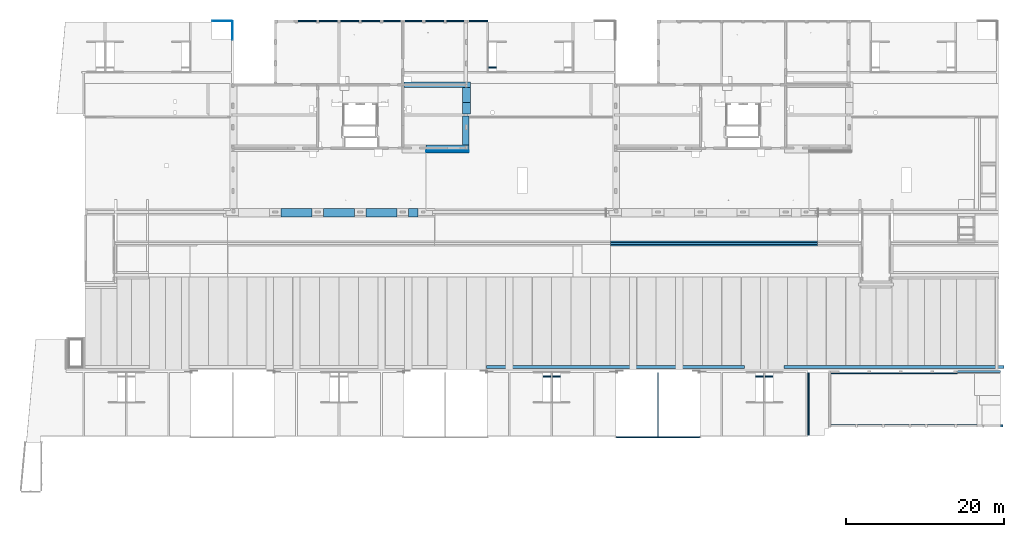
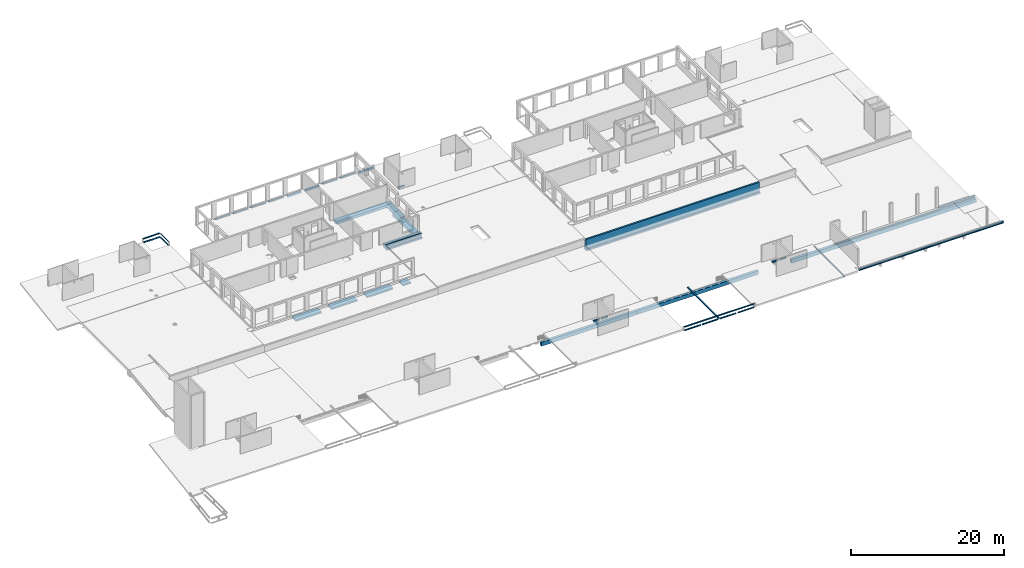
# One storey, part 12 of 36: 37 beams.
"""IFC2X3 building model written with IfcOpenShell, lengths in millimetres."""

from ifc_helpers import new_model, entity, si_unit, converted_unit, derived_unit, direction, frame, frame_2d, origin, origin_2d_with_axis, place, context, subcontext, project, spatial, polyline, circle_curve, parameter, trimmed, segment, composite_curve, rectangle, i_section, outline, extrude, source, transform, mapped, material, type_object, type_shapes, element, save


model = new_model("IFC2X3")

# Units and contexts
model_context = context("Model", 3, precision=0.01, world=origin(), true_north=direction((6.12303176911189e-17, 1.0)))
body_context = subcontext(model_context, "Body", "Model", "MODEL_VIEW")
ifc_project = project(units=[si_unit("LENGTHUNIT", "METRE", prefix="MILLI"), si_unit("AREAUNIT", "SQUARE_METRE"), si_unit("VOLUMEUNIT", "CUBIC_METRE"), converted_unit("PLANEANGLEUNIT", "DEGREE", entity("IfcRatioMeasure", 0.0174532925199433), si_unit("PLANEANGLEUNIT", "RADIAN"), dimensions=[0, 0, 0, 0, 0, 0, 0]), si_unit("MASSUNIT", "GRAM", prefix="KILO"), derived_unit("MASSDENSITYUNIT", [(si_unit("MASSUNIT", "GRAM", prefix="KILO"), 1), (si_unit("LENGTHUNIT", "METRE"), -3)]), si_unit("TIMEUNIT", "SECOND"), si_unit("FREQUENCYUNIT", "HERTZ"), si_unit("THERMODYNAMICTEMPERATUREUNIT", "DEGREE_CELSIUS"), derived_unit("THERMALTRANSMITTANCEUNIT", [(si_unit("MASSUNIT", "GRAM", prefix="KILO"), 1), (si_unit("THERMODYNAMICTEMPERATUREUNIT", "KELVIN"), -1), (si_unit("TIMEUNIT", "SECOND"), -3)]), derived_unit("VOLUMETRICFLOWRATEUNIT", [(si_unit("LENGTHUNIT", "METRE"), 3), (si_unit("TIMEUNIT", "SECOND"), -1)]), si_unit("ELECTRICCURRENTUNIT", "AMPERE"), si_unit("ELECTRICVOLTAGEUNIT", "VOLT"), si_unit("POWERUNIT", "WATT"), si_unit("FORCEUNIT", "NEWTON", prefix="KILO"), si_unit("ILLUMINANCEUNIT", "LUX"), si_unit("LUMINOUSFLUXUNIT", "LUMEN"), si_unit("LUMINOUSINTENSITYUNIT", "CANDELA"), derived_unit("USERDEFINED", [(si_unit("MASSUNIT", "GRAM", prefix="KILO"), -1), (si_unit("LENGTHUNIT", "METRE"), -2), (si_unit("TIMEUNIT", "SECOND"), 3), (si_unit("LUMINOUSFLUXUNIT", "LUMEN"), 1)]), derived_unit("LINEARVELOCITYUNIT", [(si_unit("LENGTHUNIT", "METRE"), 1), (si_unit("TIMEUNIT", "SECOND"), -1)]), si_unit("PRESSUREUNIT", "PASCAL"), derived_unit("USERDEFINED", [(si_unit("LENGTHUNIT", "METRE"), -2), (si_unit("MASSUNIT", "GRAM", prefix="KILO"), 1), (si_unit("TIMEUNIT", "SECOND"), -2)])], contexts=[model_context])

# Site, building, storey
site_placement = place(None, origin())
site = spatial("IfcSite", under=ifc_project, at=site_placement, Name="Default", CompositionType="ELEMENT")
building_placement = place(site_placement, origin())
building = spatial("IfcBuilding", under=site, at=building_placement, Name="niet gebruiken", CompositionType="ELEMENT")
storey_placement = place(building_placement, frame((0.0, 0.0, 12600.0)))
storey = spatial("IfcBuildingStorey", under=building, at=storey_placement, Name="04 vierde verdieping", CompositionType="ELEMENT", Elevation=12600.0)

# Beams
ifc_material_1 = material(Name="NLRS_f2_beton ihwg")
beam_type_1 = type_object("IfcBeamType", Name="250x280", PredefinedType="BEAM", material=ifc_material_1)
beam_1_placement = place(storey_placement, frame((56495.0, 53131.0, -340.0)))
element("IfcBeam", 1, at=beam_1_placement, inside=storey, type_object=beam_type_1, material=ifc_material_1, Name="NLRS_28.11_SF_WPB_betonbalk ihwg recht_gen:250x280", ObjectType="NLRS_28.11_SF_WPB_betonbalk ihwg recht_gen:250x280", context=body_context, shape_type="SweptSolid", body=[
    extrude(rectangle(XDim=279.999999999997, YDim=250.000000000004, at=frame_2d((0.0, 1.29958266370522e-11), x_axis=(1.0, 0.0))), frame((515.0, 0.0, -140.0), z_axis=(1.0, 0.0, 0.0), x_axis=(0.0, 0.0, -1.0)), (0.0, 0.0, 1.0), 2369.99999999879),
])
beam_type_2 = type_object("IfcBeamType", Name="250x280", PredefinedType="BEAM", material=ifc_material_1)
shared_shape_1 = source(origin(), body_context, "Body", "SweptSolid", [
    extrude(rectangle(XDim=2080.0000000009, YDim=249.999999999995, at=origin_2d_with_axis()), frame((47250.0, 53131.0, 11980.0), z_axis=(0.0, 0.0, 1.0), x_axis=(-1.0, 0.0, 0.0)), (0.0, 0.0, 1.0), 279.999999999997),
    extrude(rectangle(XDim=2079.99999999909, YDim=249.999999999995, at=origin_2d_with_axis()), frame((49950.0, 53131.0, 11980.0)), (0.0, 0.0, 1.0), 279.999999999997),
])
type_shapes(beam_type_2, [shared_shape_1])
beam_2_placement = place(storey_placement, frame((0.0, 0.0, -12600.0)))
element("IfcBeam", 2, at=beam_2_placement, inside=storey, type_object=beam_type_2, material=ifc_material_1, Name="NLRS_28.11_SF_WPB_betonbalk ihwg recht_gen:250x280", ObjectType="250x280", context=body_context, shape_type="MappedRepresentation", body=[
    mapped(shared_shape_1, transform((0.0, 0.0, 0.0), scale=1.0)),
])
ifc_material_2 = material(Name="NLRS_f2_beton prefab")
beam_type_3 = type_object("IfcBeamType", Name="NLRS_28.11_SF_WPB_prefabbeton balk recht_gen:400x600", PredefinedType="BEAM")
beam_3_placement = place(storey_placement, frame((97000.00329825, 9196.0, -1670.0)))
element("IfcBeam", 3, at=beam_3_placement, inside=storey, type_object=beam_type_3, material=ifc_material_2, Name="NLRS_28.11_SF_WPB_prefabbeton balk recht_gen:400x600", ObjectType="NLRS_28.11_SF_WPB_prefabbeton balk recht_gen:400x600", context=body_context, shape_type="SweptSolid", body=[
    extrude(rectangle(XDim=600.0, YDim=400.0, at=frame_2d((1.08002495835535e-12, 1.03952402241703e-10), x_axis=(1.0, 0.0))), frame((0.0, 0.0, -300.0), z_axis=(1.0, 0.0, 0.0), x_axis=(0.0, 0.0, -1.0)), (0.0, 0.0, 1.0), 27929.99670175),
])
beam_type_4 = type_object("IfcBeamType", Name="NLRS_28.11_SF_WPB_betonbalk ihwg enkele sponning_gen:1050x560/200x310", PredefinedType="BEAM")
beam_4_placement = place(storey_placement, frame((51575.0, 36881.0, -340.0)))
element("IfcBeam", 4, at=beam_4_placement, inside=storey, type_object=beam_type_4, material=ifc_material_1, Name="NLRS_28.11_SF_WPB_betonbalk ihwg enkele sponning_gen:1050x560/200x310", ObjectType="NLRS_28.11_SF_WPB_betonbalk ihwg enkele sponning_gen:1050x560/200x310", context=body_context, shape_type="SweptSolid", body=[
    extrude(outline(polyline([(20.0, -416.666666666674), (270.0, -416.666666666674), (270.0, 633.333333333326), (-290.0, 633.333333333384), (-290.0, -216.666666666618), (20.0, -216.66666666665), (20.0, -416.666666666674)])), frame((0.0, -108.33333333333, -290.0), z_axis=(1.0, 0.0, 0.0), x_axis=(0.0, 0.0, -1.0)), (0.0, 0.0, 1.0), 5399.99999999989),
])
beam_type_5 = type_object("IfcBeamType", Name="NLRS_28.11_SF_WPB_betonbalk ihwg recht_gen:125x250", PredefinedType="BEAM")
beam_5_placement = place(storey_placement, frame((51575.0, 36618.5000000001, -90.0)))
element("IfcBeam", 5, at=beam_5_placement, inside=storey, type_object=beam_type_5, material=ifc_material_1, Name="NLRS_28.11_SF_WPB_betonbalk ihwg recht_gen:125x250", ObjectType="NLRS_28.11_SF_WPB_betonbalk ihwg recht_gen:125x250", context=body_context, shape_type="SweptSolid", body=[
    extrude(rectangle(XDim=189.999999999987, YDim=125.000000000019, at=frame_2d((-1.19158016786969e-11, 4.33075797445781e-12), x_axis=(1.0, 0.0))), frame((0.0, 0.0, -155.0), z_axis=(1.0, 0.0, 0.0), x_axis=(0.0, 0.0, -1.0)), (0.0, 0.0, 1.0), 5399.99999999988),
])
beam_type_6 = type_object("IfcBeamType", Name="NLRS_28.11_SF_WPB_betonbalk ihwg recht_gen:700x450", PredefinedType="BEAM")
beam_6_placement = place(storey_placement, frame((48725.0, 45031.0, -340.0)))
element("IfcBeam", 6, at=beam_6_placement, inside=storey, type_object=beam_type_6, material=ifc_material_1, Name="NLRS_28.11_SF_WPB_betonbalk ihwg recht_gen:700x450", ObjectType="NLRS_28.11_SF_WPB_betonbalk ihwg recht_gen:700x450", context=body_context, shape_type="SweptSolid", body=[
    extrude(rectangle(XDim=449.999999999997, YDim=699.999999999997, at=frame_2d((0.0, 1.7308821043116e-11), x_axis=(1.0, 0.0))), frame((0.0, 0.0, -225.0), z_axis=(1.0, 0.0, 0.0), x_axis=(0.0, 0.0, -1.0)), (0.0, 0.0, 1.0), 8449.99999999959),
])
beam_type_7 = type_object("IfcBeamType", Name="NLRS_28.11_SF_WPB_prefabbeton balk dubbele sponning_gen:650x1715/200x1530/200x345", PredefinedType="BEAM")
beam_7_placement = place(storey_placement, frame((74970.0, 24876.0, -305.0)))
element("IfcBeam", 7, at=beam_7_placement, inside=storey, type_object=beam_type_7, material=ifc_material_2, Name="NLRS_28.11_SF_WPB_prefabbeton balk dubbele sponning_gen:650x1715/200x1530/200x345", ObjectType="NLRS_28.11_SF_WPB_prefabbeton balk dubbele sponning_gen:650x1715/200x1530/200x345", context=body_context, shape_type="SweptSolid", body=[
    extrude(outline(polyline([(580.0, -325.0), (835.0, -325.0), (835.0, 325.0), (-535.0, 325.0), (-535.0, 125.0), (-880.0, 125.0), (-880.0, -125.0), (580.0, -125.0), (580.0, -325.0)])), frame((0.0, 0.0, -880.0), z_axis=(1.0, 0.0, 0.0), x_axis=(0.0, 0.0, -1.0)), (0.0, 0.0, 1.0), 26270.0000000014),
])
beam_type_8 = type_object("IfcBeamType", Name="800x810", PredefinedType="BEAM", material=ifc_material_1)
beam_8_placement = place(storey_placement, frame((56575.0, 37406.0, -90.0), z_axis=(0.0, 0.0, 1.0), x_axis=(0.0, 1.0, 0.0)))
element("IfcBeam", 8, at=beam_8_placement, inside=storey, type_object=beam_type_8, material=ifc_material_1, Name="NLRS_28.11_SF_WPB_betonbalk ihwg recht_gen:800x810", ObjectType="NLRS_28.11_SF_WPB_betonbalk ihwg recht_gen:800x810", context=body_context, shape_type="SweptSolid", body=[
    extrude(rectangle(XDim=559.999999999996, YDim=800.0, at=frame_2d((1.08002495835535e-12, 4.34852154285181e-12), x_axis=(1.0, 0.0))), frame((0.0, 0.0, -530.0), z_axis=(1.0, 0.0, 0.0), x_axis=(0.0, 0.0, -1.0)), (0.0, 0.0, 1.0), 3654.99999999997),
])
beam_type_9 = type_object("IfcBeamType", Name="NLRS_28.11_SF_WPB_betonbalk ihwg recht_gen:1000x560", PredefinedType="BEAM")
beam_9_placement = place(storey_placement, frame((56675.0, 41311.0, -340.0), z_axis=(0.0, 0.0, 1.0), x_axis=(0.0, 1.0, 0.0)))
element("IfcBeam", 9, at=beam_9_placement, inside=storey, type_object=beam_type_9, material=ifc_material_1, Name="NLRS_28.11_SF_WPB_betonbalk ihwg recht_gen:1000x560", ObjectType="NLRS_28.11_SF_WPB_betonbalk ihwg recht_gen:1000x560", context=body_context, shape_type="SweptSolid", body=[
    extrude(rectangle(XDim=559.999999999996, YDim=999.999999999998, at=frame_2d((-1.08002495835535e-12, 0.0), x_axis=(1.0, 0.0))), frame((0.0, 0.0, -280.0), z_axis=(1.0, 0.0, 0.0), x_axis=(0.0, 0.0, -1.0)), (0.0, 0.0, 1.0), 1495.00000000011),
])
beam_type_10 = type_object("IfcBeamType", Name="NLRS_28.11_SF_WPB_betonbalk ihwg recht_gen:1000x150", PredefinedType="BEAM")
beam_10_placement = place(storey_placement, frame((56675.0, 42806.0, -340.0), z_axis=(0.0, 0.0, 1.0), x_axis=(0.0, 1.0, 0.0)))
element("IfcBeam", 10, at=beam_10_placement, inside=storey, type_object=beam_type_10, material=ifc_material_1, Name="NLRS_28.11_SF_WPB_betonbalk ihwg recht_gen:1000x150", ObjectType="NLRS_28.11_SF_WPB_betonbalk ihwg recht_gen:1000x150", context=body_context, shape_type="SweptSolid", body=[
    extrude(rectangle(XDim=149.999999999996, YDim=999.999999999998, at=origin_2d_with_axis()), frame((0.0, 0.0, -75.0), z_axis=(1.0, 0.0, 0.0), x_axis=(0.0, 0.0, -1.0)), (0.0, 0.0, 1.0), 1875.00000000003),
])
ifc_material_3 = material(Name="NLRS_h2_staal")
beam_type_11 = type_object("IfcBeamType", Name="NLRS_28.11_SF_WPB_stalen ligger HEA_gen:ligger HEA 160", PredefinedType="BEAM")
beam_11_placement = place(storey_placement, frame((75700.0, 300.0, -240.0)))
element("IfcBeam", 11, at=beam_11_placement, inside=storey, type_object=beam_type_11, material=ifc_material_3, Name="NLRS_28.11_SF_WPB_stalen ligger HEA_gen:ligger HEA 160", ObjectType="NLRS_28.11_SF_WPB_stalen ligger HEA_gen:ligger HEA 160", context=body_context, shape_type="SweptSolid", body=[
    extrude(i_section(OverallWidth=159.999999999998, OverallDepth=152.000000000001, WebThickness=5.99999999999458, FlangeThickness=8.99999999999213, FilletRadius=15.0000000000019, at=frame_2d((0.0, 8.95283847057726e-13), x_axis=(1.0, 0.0))), frame((0.0, 0.0, 0.0), z_axis=(1.0, 0.0, 0.0), x_axis=(0.0, 0.0, -1.0)), (0.0, 0.0, 1.0), 2499.99999999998),
])
for number, where, name in (
    (12, (78400.0, 300.0, -240.0), "NLRS_28.11_SF_WPB_stalen ligger HEA_gen:ligger HEA 160"),
    (13, (81100.0, 300.0, -240.0), "NLRS_28.11_SF_WPB_stalen ligger HEA_gen:ligger HEA 160"),
):
    element("IfcBeam", number, at=place(storey_placement, frame(where)), inside=storey, type_object=beam_type_11, material=ifc_material_3, Name=name, ObjectType="NLRS_28.11_SF_WPB_stalen ligger HEA_gen:ligger HEA 160", context=body_context, shape_type="SweptSolid", body=[
        extrude(i_section(OverallWidth=160.0, OverallDepth=152.000000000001, WebThickness=5.99999999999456, FlangeThickness=8.99999999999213, FilletRadius=15.0000000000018, at=frame_2d((1.08002495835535e-12, 8.45545855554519e-13), x_axis=(1.0, 0.0))), frame((0.0, 0.0, 0.0), z_axis=(1.0, 0.0, 0.0), x_axis=(0.0, 0.0, -1.0)), (0.0, 0.0, 1.0), 2499.99999999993),
    ])
beam_12_placement = place(storey_placement, frame((83800.0, 300.0, -240.0)))
element("IfcBeam", 14, at=beam_12_placement, inside=storey, type_object=beam_type_11, material=ifc_material_3, Name="NLRS_28.11_SF_WPB_stalen ligger HEA_gen:ligger HEA 160", ObjectType="NLRS_28.11_SF_WPB_stalen ligger HEA_gen:ligger HEA 160", context=body_context, shape_type="SweptSolid", body=[
    extrude(i_section(OverallWidth=160.0, OverallDepth=152.000000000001, WebThickness=5.99999999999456, FlangeThickness=8.99999999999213, FilletRadius=15.0000000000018, at=frame_2d((1.08002495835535e-12, 8.81072992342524e-13), x_axis=(1.0, 0.0))), frame((0.0, 0.0, 0.0), z_axis=(1.0, 0.0, 0.0), x_axis=(0.0, 0.0, -1.0)), (0.0, 0.0, 1.0), 2499.99999999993),
])
beam_13_placement = place(storey_placement, frame((75700.0, 300.0, 320.0)))
element("IfcBeam", 15, at=beam_13_placement, inside=storey, type_object=beam_type_11, material=ifc_material_3, Name="NLRS_28.11_SF_WPB_stalen ligger HEA_gen:ligger HEA 160", ObjectType="NLRS_28.11_SF_WPB_stalen ligger HEA_gen:ligger HEA 160", context=body_context, shape_type="SweptSolid", body=[
    extrude(i_section(OverallWidth=160.0, OverallDepth=152.000000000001, WebThickness=5.99999999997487, FlangeThickness=8.99999999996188, FilletRadius=15.0000000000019, at=frame_2d((-1.08002495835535e-12, 9.45021838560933e-13), x_axis=(1.0, 0.0))), frame((0.0, 0.0, 0.0), z_axis=(1.0, 0.0, 0.0), x_axis=(0.0, 0.0, -1.0)), (0.0, 0.0, 1.0), 10600.0),
])
beam_type_12 = type_object("IfcBeamType", Name="NLRS_28.11_SF_WPB_stalen ligger buisprofiel warmgevormd vierkant_gen:ligger buisprofiel warmgevormd vierkant SHSH_180x180x10", PredefinedType="BEAM")
beam_14_placement = place(storey_placement, frame((81000.0, 395.0, -180.0), z_axis=(0.0, 0.0, 1.0), x_axis=(0.0, 1.0, 0.0)))
element("IfcBeam", 16, at=beam_14_placement, inside=storey, type_object=beam_type_12, material=ifc_material_3, Name="NLRS_28.11_SF_WPB_stalen ligger buisprofiel warmgevormd vierkant_gen:ligger buisprofiel warmgevormd vierkant SHSH_180x180x10", ObjectType="NLRS_28.11_SF_WPB_stalen ligger buisprofiel warmgevormd vierkant_gen:ligger buisprofiel warmgevormd vierkant SHSH_180x180x10", context=body_context, shape_type="SweptSolid", body=[
    extrude(outline(polyline([(-90.0, -90.0), (90.0, -90.0), (90.0, 90.0), (-90.0, 90.0), (-90.0, -90.0)]), holes=[composite_curve([segment(polyline([(-80.0, -70.0), (-80.0, 70.0)]), True, "CONTINUOUS"), segment(trimmed(circle_curve(frame_2d((-70.0, 70.0), x_axis=(0.0, -1.0)), 10.0), [parameter(180.000000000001)], [parameter(270.0)], True, "PARAMETER"), False, "CONTINUOUS"), segment(polyline([(-70.0, 80.0), (70.0, 80.0)]), True, "CONTINUOUS"), segment(trimmed(circle_curve(frame_2d((70.0, 70.0), x_axis=(0.0, -1.0)), 10.0), [parameter(90.0000000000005)], [parameter(180.0)], True, "PARAMETER"), False, "CONTINUOUS"), segment(polyline([(80.0, 70.0), (80.0, -70.0)]), True, "CONTINUOUS"), segment(trimmed(circle_curve(frame_2d((70.0, -70.0), x_axis=(0.0, -1.0)), 10.0), [parameter(4.07110999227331e-13)], [parameter(90.0000000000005)], True, "PARAMETER"), False, "CONTINUOUS"), segment(polyline([(70.0, -80.0), (-70.0, -80.0)]), True, "CONTINUOUS"), segment(trimmed(circle_curve(frame_2d((-70.0, -70.0), x_axis=(0.0, -1.0)), 10.0), [parameter(270.0)], [parameter(4.07110999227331e-13)], True, "PARAMETER"), False, "CONTINUOUS")], self_intersect=False)]), frame((12.7000006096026, 0.0, 0.0), z_axis=(1.0, 0.0, 0.0), x_axis=(0.0, 0.0, -1.0)), (0.0, 0.0, 1.0), 8072.2999993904),
])
beam_type_13 = type_object("IfcBeamType", Name="NLRS_28.11_SF_WPB_stalen ligger hoekprofiel gelijkzijdig_gen:ligger gelijzijdig hoekprofiel LEQU_200x200x15", PredefinedType="BEAM")
beam_15_placement = place(storey_placement, frame((100117.5, 8496.0, -380.0), z_axis=(0.0, 0.0, 1.0), x_axis=(0.0, -1.0, 0.0)))
element("IfcBeam", 17, at=beam_15_placement, inside=storey, type_object=beam_type_13, material=ifc_material_3, Name="NLRS_28.11_SF_WPB_stalen ligger hoekprofiel gelijkzijdig_gen:ligger gelijzijdig hoekprofiel LEQU_200x200x15", ObjectType="NLRS_28.11_SF_WPB_stalen ligger hoekprofiel gelijkzijdig_gen:ligger gelijzijdig hoekprofiel LEQU_200x200x15", context=body_context, shape_type="SweptSolid", body=[
    extrude(outline(composite_curve([segment(polyline([(-126.666666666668, -73.333333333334), (73.333333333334, -73.333333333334)]), True, "CONTINUOUS"), segment(polyline([(73.3333333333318, -73.3333333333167), (73.3333333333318, 126.666666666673)]), True, "CONTINUOUS"), segment(polyline([(73.333333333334, 126.666666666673), (66.3333333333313, 126.666666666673)]), True, "CONTINUOUS"), segment(trimmed(circle_curve(frame_2d((66.3333333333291, 118.666666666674), x_axis=(0.0, 1.0)), 7.99999999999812), [parameter(0.0)], [parameter(90.0000000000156)], True, "PARAMETER"), True, "CONTINUOUS"), segment(polyline([(58.3333333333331, 118.666666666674), (58.3333333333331, -42.333333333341)]), True, "CONTINUOUS"), segment(trimmed(circle_curve(frame_2d((42.3333333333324, -42.3333333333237), x_axis=(1.0, 0.0)), 15.9999999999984), [parameter(270.0)], [parameter(0.0)], True, "PARAMETER"), False, "CONTINUOUS"), segment(polyline([(42.3333333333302, -58.3333333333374), (-118.666666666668, -58.3333333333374)]), True, "CONTINUOUS"), segment(trimmed(circle_curve(frame_2d((-118.66666666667, -66.3333333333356), x_axis=(0.0, 1.0)), 7.99999999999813), [parameter(0.0)], [parameter(90.0000000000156)], True, "PARAMETER"), True, "CONTINUOUS"), segment(polyline([(-126.666666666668, -66.3333333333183), (-126.666666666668, -73.333333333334)]), True, "CONTINUOUS")], self_intersect=False)), frame((0.0, -19.1666666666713, 73.3333333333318), z_axis=(1.0, 0.0, 0.0), x_axis=(0.0, 0.0, -1.0)), (0.0, 0.0, 1.0), 7940.99999999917),
])
beam_type_14 = type_object("IfcBeamType", Name="ligger stripstaal RECT_355x12", PredefinedType="BEAM", material=ifc_material_3)
shared_shape_2 = source(origin(), body_context, "Body", "SweptSolid", [
    extrude(rectangle(XDim=21874.9999079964, YDim=355.0, at=origin_2d_with_axis()), frame((0.0, 0.0, -6.0), z_axis=(0.0, 0.0, 1.0), x_axis=(-1.0, 0.0, 0.0)), (0.0, 0.0, 1.0), 12.0),
    extrude(rectangle(XDim=21874.9999079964, YDim=355.0, at=origin_2d_with_axis()), frame((0.0, 0.0, -6.0), z_axis=(0.0, 0.0, 1.0), x_axis=(-1.0, 0.0, 0.0)), (0.0, 0.0, 1.0), 12.0),
])
type_shapes(beam_type_14, [shared_shape_2])
beam_16_placement = place(storey_placement, frame((113872.500046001, 1737.50000000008, -1026.0), z_axis=(0.0, 0.0, 1.0), x_axis=(-1.0, 0.0, 0.0)))
element("IfcBeam", 18, at=beam_16_placement, inside=storey, type_object=beam_type_14, material=ifc_material_3, Name="NLRS_28.11_SF_WPB_stalen ligger stripstaal_gen:ligger stripstaal RECT_355x12", ObjectType="ligger stripstaal RECT_355x12", context=body_context, shape_type="MappedRepresentation", body=[
    mapped(shared_shape_2, transform((0.0, 0.0, 0.0), scale=1.0)),
])
beam_type_15 = type_object("IfcBeamType", Name="NLRS_28.11_SF_WPB_stalen ligger HEB_gen:ligger HEB 260", PredefinedType="BEAM")
beam_17_placement = place(storey_placement, frame((102935.0, 1700.0, -760.0)))
element("IfcBeam", 19, at=beam_17_placement, inside=storey, type_object=beam_type_15, material=ifc_material_3, Name="NLRS_28.11_SF_WPB_stalen ligger HEB_gen:ligger HEB 260", ObjectType="NLRS_28.11_SF_WPB_stalen ligger HEB_gen:ligger HEB 260", context=body_context, shape_type="SweptSolid", body=[
    extrude(i_section(OverallWidth=260.0, OverallDepth=260.000000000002, WebThickness=9.99999999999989, FlangeThickness=17.5000000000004, FilletRadius=24.0000000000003, at=frame_2d((2.1600499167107e-12, 1.27897692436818e-13), x_axis=(0.0, 1.0))), frame((0.0, 0.0, -130.0), z_axis=(1.0, 0.0, 0.0), x_axis=(0.0, 0.0, -1.0)), (0.0, 0.0, 1.0), 21874.9999079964),
])
beam_18_placement = place(storey_placement, frame((124510.0, 8621.0, -760.0), z_axis=(0.0, 0.0, 1.0), x_axis=(-1.0, 0.0, 0.0)))
element("IfcBeam", 20, at=beam_18_placement, inside=storey, type_object=beam_type_15, material=ifc_material_3, Name="NLRS_28.11_SF_WPB_stalen ligger HEB_gen:ligger HEB 260", ObjectType="NLRS_28.11_SF_WPB_stalen ligger HEB_gen:ligger HEB 260", context=body_context, shape_type="SweptSolid", body=[
    extrude(i_section(OverallWidth=259.999999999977, OverallDepth=260.000000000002, WebThickness=10.0000000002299, FlangeThickness=17.5000000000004, FilletRadius=24.0000000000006, at=frame_2d((0.0, -1.09423581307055e-12), x_axis=(0.0, 1.0))), frame((0.0, 0.0, -130.0), z_axis=(1.0, 0.0, 0.0), x_axis=(0.0, 0.0, -1.0)), (0.0, 0.0, 1.0), 5509.99999999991),
])
beam_type_16 = type_object("IfcBeamType", Name="NLRS_28.11_SF_WPB_stalen ligger hoekprofiel gelijkzijdig_gen:ligger gelijzijdig hoekprofiel LEQU_180x180x18", PredefinedType="BEAM")
beam_19_placement = place(storey_placement, frame((119000.0, 8445.0, -858.0), z_axis=(0.0, 0.0, 1.0), x_axis=(-1.0, 0.0, 0.0)))
element("IfcBeam", 21, at=beam_19_placement, inside=storey, type_object=beam_type_16, material=ifc_material_3, Name="NLRS_28.11_SF_WPB_stalen ligger hoekprofiel gelijkzijdig_gen:ligger gelijzijdig hoekprofiel LEQU_180x180x18", ObjectType="NLRS_28.11_SF_WPB_stalen ligger hoekprofiel gelijkzijdig_gen:ligger gelijzijdig hoekprofiel LEQU_180x180x18", context=body_context, shape_type="SweptSolid", body=[
    extrude(outline(composite_curve([segment(polyline([(-112.0, -68.0), (68.0, -68.0)]), True, "CONTINUOUS"), segment(polyline([(68.0, -68.0), (68.0, 112.0)]), True, "CONTINUOUS"), segment(polyline([(68.0, 112.0), (59.0, 112.0)]), True, "CONTINUOUS"), segment(trimmed(circle_curve(frame_2d((59.0, 103.0), x_axis=(0.0, 1.0)), 9.00000000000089), [parameter(0.0)], [parameter(89.9999999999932)], True, "PARAMETER"), True, "CONTINUOUS"), segment(polyline([(50.0, 103.0), (50.0, -32.0)]), True, "CONTINUOUS"), segment(trimmed(circle_curve(frame_2d((32.0, -32.0), x_axis=(1.0, 0.0)), 18.0000000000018), [parameter(270.00000000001)], [parameter(0.0)], True, "PARAMETER"), False, "CONTINUOUS"), segment(polyline([(32.0, -50.0), (-103.0, -50.0)]), True, "CONTINUOUS"), segment(trimmed(circle_curve(frame_2d((-103.0, -59.0), x_axis=(0.0, 1.0)), 9.00000000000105), [parameter(0.0)], [parameter(89.9999999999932)], True, "PARAMETER"), True, "CONTINUOUS"), segment(polyline([(-112.0, -59.0), (-112.0, -68.0)]), True, "CONTINUOUS")], self_intersect=False)), frame((0.0, 17.0, -112.0), z_axis=(1.0, 0.0, 0.0), x_axis=(0.0, 0.0, -1.0)), (0.0, 0.0, 1.0), 16024.9999386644),
])
beam_type_17 = type_object("IfcBeamType", Name="NLRS_28.11_SF_WPB_betonbalk ihwg recht_gen:180x250", PredefinedType="BEAM")
beam_20_placement = place(storey_placement, frame((59525.0, 47236.0, -90.0)))
element("IfcBeam", 22, at=beam_20_placement, inside=storey, type_object=beam_type_17, material=ifc_material_1, Name="NLRS_28.11_SF_WPB_betonbalk ihwg recht_gen:180x250", ObjectType="NLRS_28.11_SF_WPB_betonbalk ihwg recht_gen:180x250", context=body_context, shape_type="SweptSolid", body=[
    extrude(rectangle(XDim=249.999999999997, YDim=180.000000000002, at=frame_2d((1.08002495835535e-12, -4.33431068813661e-12), x_axis=(1.0, 0.0))), frame((0.0, 0.0, -125.0), z_axis=(1.0, 0.0, 0.0), x_axis=(0.0, 0.0, -1.0)), (0.0, 0.0, 1.0), 970.000000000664),
])
for number, where, name in (
    (23, (66405.0, 8006.0, -90.0), "NLRS_28.11_SF_WPB_betonbalk ihwg recht_gen:180x250"),
    (24, (67625.0, 8006.0, -90.0), "NLRS_28.11_SF_WPB_betonbalk ihwg recht_gen:180x250"),
):
    element("IfcBeam", number, at=place(storey_placement, frame(where)), inside=storey, type_object=beam_type_17, material=ifc_material_1, Name=name, ObjectType="NLRS_28.11_SF_WPB_betonbalk ihwg recht_gen:180x250", context=body_context, shape_type="SweptSolid", body=[
        extrude(rectangle(XDim=249.999999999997, YDim=180.0, at=frame_2d((1.08713038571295e-12, 6.50146603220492e-12), x_axis=(1.0, 0.0))), frame((0.0, 0.0, -125.0), z_axis=(1.0, 0.0, 0.0), x_axis=(0.0, 0.0, -1.0)), (0.0, 0.0, 1.0), 970.000000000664),
    ])
for number, where, name in (
    (25, (93405.0, 8006.0, -90.0), "NLRS_28.11_SF_WPB_betonbalk ihwg recht_gen:180x250"),
    (26, (94625.0, 8006.0, -90.0), "NLRS_28.11_SF_WPB_betonbalk ihwg recht_gen:180x250"),
):
    element("IfcBeam", number, at=place(storey_placement, frame(where)), inside=storey, type_object=beam_type_17, material=ifc_material_1, Name=name, ObjectType="NLRS_28.11_SF_WPB_betonbalk ihwg recht_gen:180x250", context=body_context, shape_type="SweptSolid", body=[
        extrude(rectangle(XDim=249.999999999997, YDim=180.0, at=frame_2d((1.08713038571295e-12, 6.50146603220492e-12), x_axis=(1.0, 0.0))), frame((0.0, 0.0, -125.0), z_axis=(1.0, 0.0, 0.0), x_axis=(0.0, 0.0, -1.0)), (0.0, 0.0, 1.0), 970.000000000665),
    ])
beam_type_18 = type_object("IfcBeamType", Name="250x100", PredefinedType="BEAM", material=ifc_material_1)
shared_shape_3 = source(origin(), body_context, "Body", "SweptSolid", [
    extrude(rectangle(XDim=2289.99999999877, YDim=250.000000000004, at=frame_2d((2.1600499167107e-12, -8.66862137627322e-12), x_axis=(1.0, 0.0))), frame((36450.0, 53131.0, 12160.0)), (0.0, 0.0, 1.0), 100.000063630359),
    extrude(rectangle(XDim=2290.00000000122, YDim=250.000000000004, at=frame_2d((4.43378667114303e-12, 0.0), x_axis=(1.0, 0.0))), frame((44550.0, 53131.0, 12160.0), z_axis=(0.0, 0.0, 1.0), x_axis=(-1.0, 0.0, 0.0)), (0.0, 0.0, 1.0), 100.000063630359),
    extrude(rectangle(XDim=2290.00000000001, YDim=250.000000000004, at=frame_2d((-2.27373675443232e-12, 0.0), x_axis=(1.0, 0.0))), frame((39150.0, 53131.0, 12160.0), z_axis=(0.0, 0.0, 1.0), x_axis=(-1.0, 0.0, 0.0)), (0.0, 0.0, 1.0), 100.000063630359),
    extrude(rectangle(XDim=2290.0, YDim=250.000000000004, at=origin_2d_with_axis()), frame((41850.0, 53131.0, 12160.0)), (0.0, 0.0, 1.0), 100.000063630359),
])
type_shapes(beam_type_18, [shared_shape_3])
beam_21_placement = place(storey_placement, frame((0.0, 0.0, -12600.0)))
element("IfcBeam", 27, at=beam_21_placement, inside=storey, type_object=beam_type_18, material=ifc_material_1, Name="NLRS_28.11_SF_WPB_betonbalk ihwg recht_gen:250x100", ObjectType="250x100", context=body_context, shape_type="MappedRepresentation", body=[
    mapped(shared_shape_3, transform((0.0, 0.0, 0.0), scale=1.0)),
])
beam_type_19 = type_object("IfcBeamType", Name="250x100", PredefinedType="BEAM", material=ifc_material_1)
shared_shape_4 = source(origin(), body_context, "Body", "SweptSolid", [
    extrude(rectangle(XDim=2289.99999999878, YDim=250.000000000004, at=frame_2d((-4.32009983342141e-12, 0.0), x_axis=(1.0, 0.0))), frame((52650.0, 53131.0, 12160.0)), (0.0, 0.0, 1.0), 100.000073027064),
    extrude(rectangle(XDim=2290.00000000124, YDim=250.000000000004, at=frame_2d((-4.32009983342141e-12, 0.0), x_axis=(1.0, 0.0))), frame((55350.0, 53131.0, 12160.0), z_axis=(0.0, 0.0, 1.0), x_axis=(-1.0, 0.0, 0.0)), (0.0, 0.0, 1.0), 100.000073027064),
])
type_shapes(beam_type_19, [shared_shape_4])
beam_22_placement = place(storey_placement, frame((0.0, 0.0, -12600.0)))
element("IfcBeam", 28, at=beam_22_placement, inside=storey, type_object=beam_type_19, material=ifc_material_1, Name="NLRS_28.11_SF_WPB_betonbalk ihwg recht_gen:250x100", ObjectType="250x100", context=body_context, shape_type="MappedRepresentation", body=[
    mapped(shared_shape_4, transform((0.0, 0.0, 0.0), scale=1.0)),
])
beam_type_20 = type_object("IfcBeamType", Name="NLRS_28.11_SF_WPB_stalen ligger HEA_gen:ligger HEA 120", PredefinedType="BEAM")
beam_23_placement = place(storey_placement, frame((24400.0, 53188.0, -260.0)))
element("IfcBeam", 29, at=beam_23_placement, inside=storey, type_object=beam_type_20, material=ifc_material_3, Name="NLRS_28.11_SF_WPB_stalen ligger HEA_gen:ligger HEA 120", ObjectType="NLRS_28.11_SF_WPB_stalen ligger HEA_gen:ligger HEA 120", context=body_context, shape_type="SweptSolid", body=[
    extrude(i_section(OverallWidth=119.999999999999, OverallDepth=114.0, WebThickness=5.00000000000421, FlangeThickness=8.00000000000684, FilletRadius=11.9999999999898, at=frame_2d((-2.16360263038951e-12, 4.33075797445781e-12), x_axis=(1.0, 0.0))), frame((0.0, -57.0, 0.0), z_axis=(1.0, 0.0, 0.0), x_axis=(0.0, 0.0, -1.0)), (0.0, 0.0, 1.0), 2515.00000000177),
])
beam_24_placement = place(storey_placement, frame((26918.0, 50755.8950183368, -260.0), z_axis=(0.0, 0.0, 1.0), x_axis=(0.0, 1.0, 0.0)))
element("IfcBeam", 30, at=beam_24_placement, inside=storey, type_object=beam_type_20, material=ifc_material_3, Name="NLRS_28.11_SF_WPB_stalen ligger HEA_gen:ligger HEA 120", ObjectType="NLRS_28.11_SF_WPB_stalen ligger HEA_gen:ligger HEA 120", context=body_context, shape_type="SweptSolid", body=[
    extrude(i_section(OverallWidth=119.999999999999, OverallDepth=114.000000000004, WebThickness=4.99999999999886, FlangeThickness=8.00000000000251, FilletRadius=12.0000000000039, at=frame_2d((-2.16715534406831e-12, -6.49791331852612e-12), x_axis=(1.0, 0.0))), frame((0.0, -57.0, 0.0), z_axis=(1.0, 0.0, 0.0), x_axis=(0.0, 0.0, -1.0)), (0.0, 0.0, 1.0), 2318.10498166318),
])
beam_25_placement = place(storey_placement, frame((26918.0, 50766.0007019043, 340.0), z_axis=(0.0, 0.0, 1.0), x_axis=(0.0, 1.0, 0.0)))
element("IfcBeam", 31, at=beam_25_placement, inside=storey, type_object=beam_type_20, material=ifc_material_3, Name="NLRS_28.11_SF_WPB_stalen ligger HEA_gen:ligger HEA 120", ObjectType="NLRS_28.11_SF_WPB_stalen ligger HEA_gen:ligger HEA 120", context=body_context, shape_type="SweptSolid", body=[
    extrude(i_section(OverallWidth=119.999999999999, OverallDepth=114.0, WebThickness=4.99999999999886, FlangeThickness=8.00000000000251, FilletRadius=12.0000000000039, at=frame_2d((0.0, -8.66151594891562e-12), x_axis=(1.0, 0.0))), frame((0.0, -57.0, 0.0), z_axis=(1.0, 0.0, 0.0), x_axis=(0.0, 0.0, -1.0)), (0.0, 0.0, 1.0), 2307.99929809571),
])
beam_26_placement = place(storey_placement, frame((24400.0, 53188.0, 340.0)))
element("IfcBeam", 32, at=beam_26_placement, inside=storey, type_object=beam_type_20, material=ifc_material_3, Name="NLRS_28.11_SF_WPB_stalen ligger HEA_gen:ligger HEA 120", ObjectType="NLRS_28.11_SF_WPB_stalen ligger HEA_gen:ligger HEA 120", context=body_context, shape_type="SweptSolid", body=[
    extrude(i_section(OverallWidth=119.999999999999, OverallDepth=114.0, WebThickness=5.00000000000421, FlangeThickness=8.00000000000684, FilletRadius=11.9999999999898, at=frame_2d((0.0, 4.33075797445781e-12), x_axis=(1.0, 0.0))), frame((0.0, -57.0, 0.0), z_axis=(1.0, 0.0, 0.0), x_axis=(0.0, 0.0, -1.0)), (0.0, 0.0, 1.0), 2515.00000000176),
])
beam_type_21 = type_object("IfcBeamType", Name="NLRS_28.11_SF_WPB_betonbalk ihwg recht_gen:1050x250", PredefinedType="BEAM")
beam_27_placement = place(storey_placement, frame((49350.0, 28781.0, -650.0)))
element("IfcBeam", 33, at=beam_27_placement, inside=storey, type_object=beam_type_21, material=ifc_material_1, Name="NLRS_28.11_SF_WPB_betonbalk ihwg recht_gen:1050x250", ObjectType="NLRS_28.11_SF_WPB_betonbalk ihwg recht_gen:1050x250", context=body_context, shape_type="SweptSolid", body=[
    extrude(rectangle(XDim=249.999999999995, YDim=1050.0, at=frame_2d((1.08713038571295e-12, 0.0), x_axis=(1.0, 0.0))), frame((0.0, 0.0, -125.0), z_axis=(1.0, 0.0, 0.0), x_axis=(0.0, 0.0, -1.0)), (0.0, 0.0, 1.0), 1200.0000000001),
])
for number, where, name in (
    (34, (43950.0, 28781.0, -650.0), "NLRS_28.11_SF_WPB_betonbalk ihwg recht_gen:1050x250"),
    (35, (38550.0, 28781.0, -650.0), "NLRS_28.11_SF_WPB_betonbalk ihwg recht_gen:1050x250"),
    (36, (33150.0, 28781.0, -650.0), "NLRS_28.11_SF_WPB_betonbalk ihwg recht_gen:1050x250"),
):
    element("IfcBeam", number, at=place(storey_placement, frame(where)), inside=storey, type_object=beam_type_21, material=ifc_material_1, Name=name, ObjectType="NLRS_28.11_SF_WPB_betonbalk ihwg recht_gen:1050x250", context=body_context, shape_type="SweptSolid", body=[
        extrude(rectangle(XDim=249.999999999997, YDim=1050.0, at=frame_2d((1.08002495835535e-12, 1.08002495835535e-11), x_axis=(1.0, 0.0))), frame((0.0, 0.0, -125.0), z_axis=(1.0, 0.0, 0.0), x_axis=(0.0, 0.0, -1.0)), (0.0, 0.0, 1.0), 3900.0),
    ])
beam_type_22 = type_object("IfcBeamType", Name="400x600", PredefinedType="BEAM", material=ifc_material_2)
shared_shape_5 = source(origin(), body_context, "Body", "SweptSolid", [
    extrude(rectangle(XDim=14369.9999999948, YDim=400.0, at=frame_2d((-8.64019966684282e-12, 0.0), x_axis=(1.0, 0.0))), frame((66385.0, 9196.0, 10330.0)), (0.0, 0.0, 1.0), 600.0),
    extrude(rectangle(XDim=18410.0000000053, YDim=400.0, at=frame_2d((-3.63797880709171e-12, -5.54223333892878e-13), x_axis=(1.0, 0.0))), frame((82795.0, 9196.0, 10330.0), z_axis=(0.0, 0.0, 1.0), x_axis=(-1.0, 0.0, 0.0)), (0.0, 0.0, 1.0), 600.0),
])
type_shapes(beam_type_22, [shared_shape_5])
beam_28_placement = place(storey_placement, frame((0.0, 0.0, -12600.0)))
element("IfcBeam", 37, at=beam_28_placement, inside=storey, type_object=beam_type_22, material=ifc_material_2, Name="NLRS_28.11_SF_WPB_prefabbeton balk recht_gen:400x600", ObjectType="400x600", context=body_context, shape_type="MappedRepresentation", body=[
    mapped(shared_shape_5, transform((0.0, 0.0, 0.0), scale=1.0)),
])

save(model, "model.ifc")
